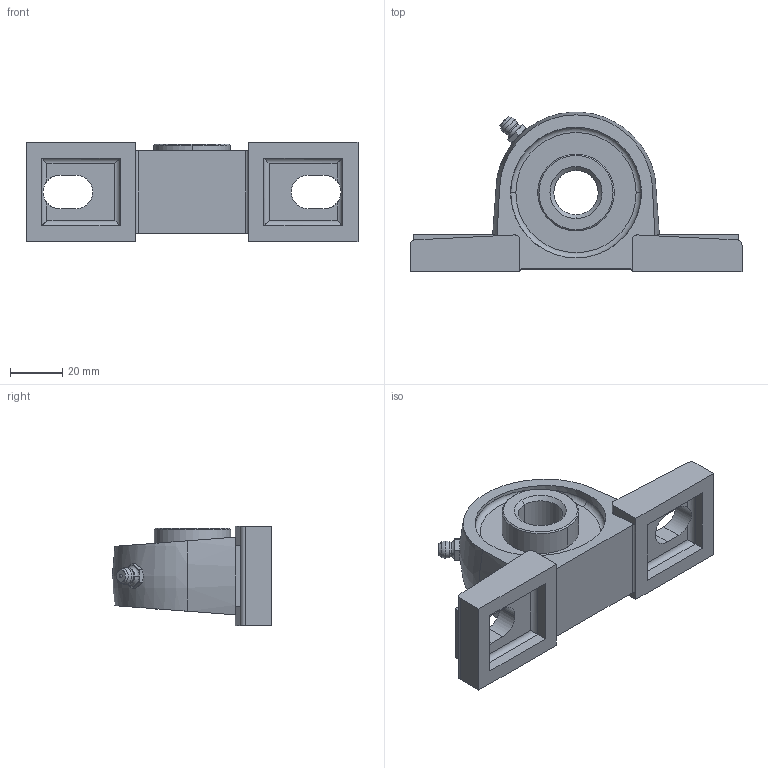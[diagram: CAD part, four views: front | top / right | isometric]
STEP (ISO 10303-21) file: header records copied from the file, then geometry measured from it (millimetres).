
FILE_DESCRIPTION (( 'STEP AP214' ), '1' );
FILE_NAME ('4.0011 Laakeri UCP 203 JIB.STEP', '2025-09-24T07:16:45', ( '' ), ( '' ), 'SwSTEP 2.0', 'SolidWorks 2025', '' );
FILE_SCHEMA (( 'AUTOMOTIVE_DESIGN' ));
Length unit declared in the file: millimetre
Products named in the file (1): 4.0011 Laakeri UCP 203 JIB
Bounding box: 127 x 60.92 x 38 mm (x, y, z)
Volume: 95754.9 mm3; surface area: 24783.5 mm2
Topology: 1 solids, 1 shells, 123 faces, 313 edges, 199 vertices
Faces by surface type: plane 58, cylinder 36, cone 17, torus 9, sphere 3
Entity records: 4647 total; most frequent: CARTESIAN_POINT 1265, ORIENTED_EDGE 616, DIRECTION 595, EDGE_CURVE 308, AXIS2_PLACEMENT_3D 215, VERTEX_POINT 197, LINE 165, VECTOR 165
